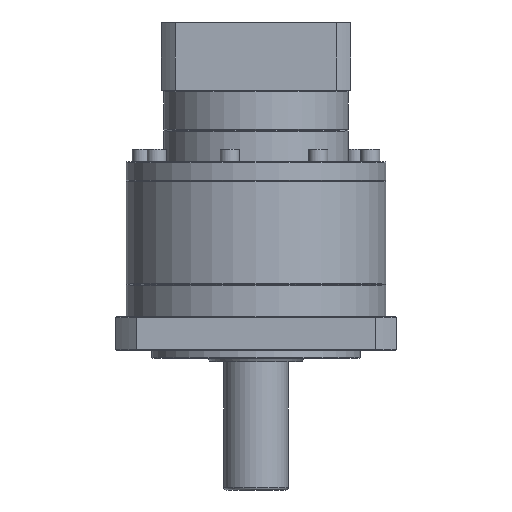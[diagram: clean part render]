
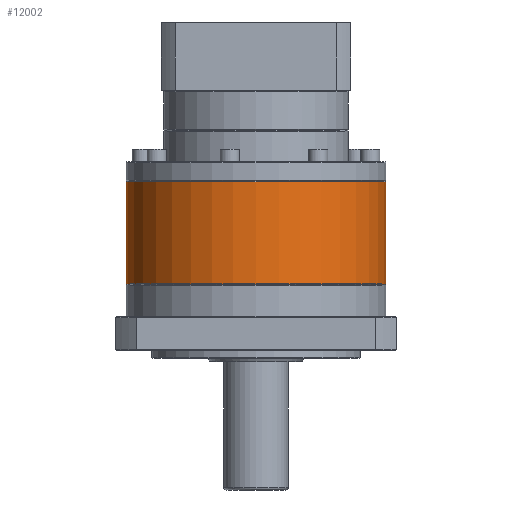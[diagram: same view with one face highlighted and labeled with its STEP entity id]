
A CAD part, front view. The second image highlights one B-rep face of the part: STEP entity #12002.
In plain terms, the highlighted cylindrical face has radius 81 mm (diameter 162 mm), a partial arc.
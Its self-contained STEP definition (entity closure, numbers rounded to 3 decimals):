
#2979 = AXIS2_PLACEMENT_3D ( 'NONE', #83257, #73854, #107247 ) ;
#5192 = VERTEX_POINT ( 'NONE', #59838 ) ;
#6529 = DIRECTION ( 'NONE',  ( 0., 0., -1. ) ) ;
#9352 = CARTESIAN_POINT ( 'NONE',  ( -34.798, 65.29, -134.524 ) ) ;
#10927 = CIRCLE ( 'NONE', #48832, 81. ) ;
#12002 = ADVANCED_FACE ( 'NONE', ( #75834 ), #66676, .T. ) ;
#12132 = VERTEX_POINT ( 'NONE', #9352 ) ;
#12486 = ORIENTED_EDGE ( 'NONE', *, *, #89354, .T. ) ;
#14603 = DIRECTION ( 'NONE',  ( 0., 0., -1. ) ) ;
#15016 = EDGE_CURVE ( 'NONE', #26697, #5192, #67178, .T. ) ;
#24706 = CARTESIAN_POINT ( 'NONE',  ( -34.798, 65.29, -70.524 ) ) ;
#26498 = EDGE_CURVE ( 'NONE', #91387, #26697, #10927, .T. ) ;
#26697 = VERTEX_POINT ( 'NONE', #41627 ) ;
#35062 = DIRECTION ( 'NONE',  ( -1., 0., 0. ) ) ;
#41627 = CARTESIAN_POINT ( 'NONE',  ( -196.798, 65.29, -71.024 ) ) ;
#42469 = DIRECTION ( 'NONE',  ( 0., 0., -1. ) ) ;
#45139 = VECTOR ( 'NONE', #14603, 1000. ) ;
#48832 = AXIS2_PLACEMENT_3D ( 'NONE', #57195, #6529, #56842 ) ;
#51725 = CARTESIAN_POINT ( 'NONE',  ( -196.798, 65.29, -70.524 ) ) ;
#56842 = DIRECTION ( 'NONE',  ( -1., 0., 0. ) ) ;
#57195 = CARTESIAN_POINT ( 'NONE',  ( -115.798, 65.29, -71.024 ) ) ;
#59665 = CARTESIAN_POINT ( 'NONE',  ( -115.798, 65.29, -70.524 ) ) ;
#59838 = CARTESIAN_POINT ( 'NONE',  ( -196.798, 65.29, -134.524 ) ) ;
#66676 = CYLINDRICAL_SURFACE ( 'NONE', #70561, 81. ) ;
#66923 = DIRECTION ( 'NONE',  ( 0., 0., -1. ) ) ;
#67178 = LINE ( 'NONE', #51725, #45139 ) ;
#68642 = EDGE_LOOP ( 'NONE', ( #73998, #99016, #87481, #12486 ) ) ;
#70561 = AXIS2_PLACEMENT_3D ( 'NONE', #59665, #66923, #35062 ) ;
#70858 = EDGE_CURVE ( 'NONE', #91387, #12132, #107514, .T. ) ;
#71139 = VECTOR ( 'NONE', #42469, 1000. ) ;
#73854 = DIRECTION ( 'NONE',  ( 0., 0., 1. ) ) ;
#73998 = ORIENTED_EDGE ( 'NONE', *, *, #70858, .F. ) ;
#75834 = FACE_OUTER_BOUND ( 'NONE', #68642, .T. ) ;
#76089 = CARTESIAN_POINT ( 'NONE',  ( -34.798, 65.29, -71.024 ) ) ;
#83257 = CARTESIAN_POINT ( 'NONE',  ( -115.798, 65.29, -134.524 ) ) ;
#87481 = ORIENTED_EDGE ( 'NONE', *, *, #15016, .T. ) ;
#89354 = EDGE_CURVE ( 'NONE', #5192, #12132, #97084, .T. ) ;
#91387 = VERTEX_POINT ( 'NONE', #76089 ) ;
#97084 = CIRCLE ( 'NONE', #2979, 81. ) ;
#99016 = ORIENTED_EDGE ( 'NONE', *, *, #26498, .T. ) ;
#107247 = DIRECTION ( 'NONE',  ( -1., 0., 0. ) ) ;
#107514 = LINE ( 'NONE', #24706, #71139 ) ;
